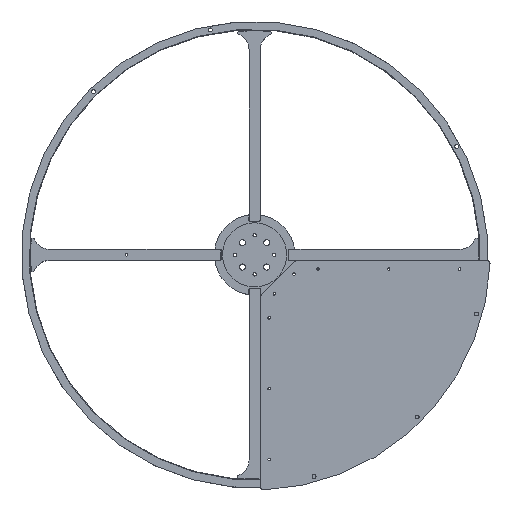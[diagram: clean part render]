
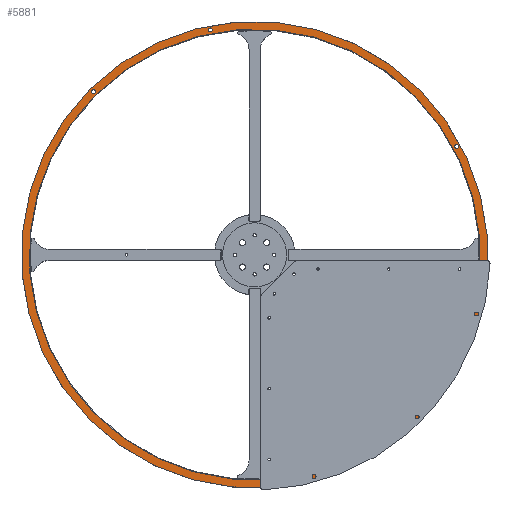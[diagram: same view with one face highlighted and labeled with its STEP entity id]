
A CAD part, top view. The second image highlights one B-rep face of the part: STEP entity #5881.
In plain terms, the highlighted planar face has unit normal (0, 0, 1) as drawn and (0, -1, 0) by its records, which use the part's own axes.
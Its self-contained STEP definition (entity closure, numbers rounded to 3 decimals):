
#114 = VERTEX_POINT ( 'NONE', #3445 ) ;
#362 = AXIS2_PLACEMENT_3D ( 'NONE', #10550, #965, #3532 ) ;
#382 = VERTEX_POINT ( 'NONE', #3102 ) ;
#461 = ORIENTED_EDGE ( 'NONE', *, *, #1300, .F. ) ;
#481 = CIRCLE ( 'NONE', #10636, 406. ) ;
#552 = CARTESIAN_POINT ( 'NONE',  ( -265.15, 0., 315.993 ) ) ;
#558 = AXIS2_PLACEMENT_3D ( 'NONE', #552, #5735, #3990 ) ;
#619 = EDGE_LOOP ( 'NONE', ( #4091, #10844 ) ) ;
#828 = EDGE_LOOP ( 'NONE', ( #1399, #2269 ) ) ;
#837 = DIRECTION ( 'NONE',  ( 0., 0., -1. ) ) ;
#965 = DIRECTION ( 'NONE',  ( 0., 1., 0. ) ) ;
#1036 = CARTESIAN_POINT ( 'NONE',  ( 406.233, 0., -71.63 ) ) ;
#1039 = CARTESIAN_POINT ( 'NONE',  ( -265.15, 0., 312.493 ) ) ;
#1214 = DIRECTION ( 'NONE',  ( 0., 0., -1. ) ) ;
#1300 = EDGE_CURVE ( 'NONE', #8530, #6712, #4088, .T. ) ;
#1399 = ORIENTED_EDGE ( 'NONE', *, *, #6649, .F. ) ;
#1979 = DIRECTION ( 'NONE',  ( 0., 1., 0. ) ) ;
#2009 = CARTESIAN_POINT ( 'NONE',  ( 378.287, 0., 164.484 ) ) ;
#2049 = EDGE_CURVE ( 'NONE', #7727, #6214, #4028, .T. ) ;
#2150 = CARTESIAN_POINT ( 'NONE',  ( -46.696, 0., 409.848 ) ) ;
#2269 = ORIENTED_EDGE ( 'NONE', *, *, #11069, .F. ) ;
#2374 = DIRECTION ( 'NONE',  ( 0., -1., 0. ) ) ;
#2470 = EDGE_CURVE ( 'NONE', #3298, #9819, #11010, .T. ) ;
#2538 = CARTESIAN_POINT ( 'NONE',  ( 0., 0., 0. ) ) ;
#2751 = EDGE_CURVE ( 'NONE', #382, #9657, #5403, .T. ) ;
#2850 = CARTESIAN_POINT ( 'NONE',  ( -46.696, 0., 406.348 ) ) ;
#2868 = AXIS2_PLACEMENT_3D ( 'NONE', #6453, #7402, #7235 ) ;
#2945 = FACE_OUTER_BOUND ( 'NONE', #828, .T. ) ;
#3102 = CARTESIAN_POINT ( 'NONE',  ( 0., 0., 406. ) ) ;
#3297 = CARTESIAN_POINT ( 'NONE',  ( 406.233, 0., -71.63 ) ) ;
#3298 = VERTEX_POINT ( 'NONE', #11022 ) ;
#3437 = DIRECTION ( 'NONE',  ( 0., 0., -1. ) ) ;
#3445 = CARTESIAN_POINT ( 'NONE',  ( 406.233, 0., -68.13 ) ) ;
#3465 = CIRCLE ( 'NONE', #362, 420. ) ;
#3532 = DIRECTION ( 'NONE',  ( 0., 0., 1. ) ) ;
#3716 = DIRECTION ( 'NONE',  ( 0., -1., 0. ) ) ;
#3764 = CARTESIAN_POINT ( 'NONE',  ( 406.233, 0., -75.13 ) ) ;
#3858 = ORIENTED_EDGE ( 'NONE', *, *, #2470, .F. ) ;
#3926 = ORIENTED_EDGE ( 'NONE', *, *, #6217, .F. ) ;
#3978 = CARTESIAN_POINT ( 'NONE',  ( 0., 0., 0. ) ) ;
#3990 = DIRECTION ( 'NONE',  ( 0., 0., -1. ) ) ;
#4028 = CIRCLE ( 'NONE', #558, 3.5 ) ;
#4088 = CIRCLE ( 'NONE', #10400, 3.5 ) ;
#4091 = ORIENTED_EDGE ( 'NONE', *, *, #7190, .T. ) ;
#4095 = AXIS2_PLACEMENT_3D ( 'NONE', #3297, #10371, #837 ) ;
#4271 = CARTESIAN_POINT ( 'NONE',  ( 0., 0., -406. ) ) ;
#4367 = AXIS2_PLACEMENT_3D ( 'NONE', #1036, #4512, #1214 ) ;
#4452 = VERTEX_POINT ( 'NONE', #4678 ) ;
#4512 = DIRECTION ( 'NONE',  ( 0., -1., 0. ) ) ;
#4553 = DIRECTION ( 'NONE',  ( 0., 0., 1. ) ) ;
#4648 = DIRECTION ( 'NONE',  ( 0., -1., 0. ) ) ;
#4660 = VERTEX_POINT ( 'NONE', #7689 ) ;
#4678 = CARTESIAN_POINT ( 'NONE',  ( 0., 0., 420. ) ) ;
#4840 = AXIS2_PLACEMENT_3D ( 'NONE', #8673, #6252, #4553 ) ;
#5246 = AXIS2_PLACEMENT_3D ( 'NONE', #3978, #1979, #8879 ) ;
#5403 = CIRCLE ( 'NONE', #2868, 406. ) ;
#5495 = FACE_BOUND ( 'NONE', #10632, .T. ) ;
#5559 = CARTESIAN_POINT ( 'NONE',  ( -46.696, 0., 409.848 ) ) ;
#5664 = FACE_BOUND ( 'NONE', #7514, .T. ) ;
#5735 = DIRECTION ( 'NONE',  ( 0., -1., 0. ) ) ;
#5813 = AXIS2_PLACEMENT_3D ( 'NONE', #2009, #3716, #7220 ) ;
#5881 = ADVANCED_FACE ( 'NONE', ( #10710, #5664, #10890, #6467, #2945, #5495 ), #8934, .F. ) ;
#6070 = CIRCLE ( 'NONE', #10217, 3.5 ) ;
#6214 = VERTEX_POINT ( 'NONE', #10512 ) ;
#6217 = EDGE_CURVE ( 'NONE', #9819, #3298, #7251, .T. ) ;
#6241 = AXIS2_PLACEMENT_3D ( 'NONE', #5559, #9004, #10775 ) ;
#6252 = DIRECTION ( 'NONE',  ( 0., 1., 0. ) ) ;
#6271 = EDGE_CURVE ( 'NONE', #114, #11134, #9231, .T. ) ;
#6446 = ORIENTED_EDGE ( 'NONE', *, *, #8831, .F. ) ;
#6453 = CARTESIAN_POINT ( 'NONE',  ( 0., 0., 0. ) ) ;
#6467 = FACE_BOUND ( 'NONE', #6803, .T. ) ;
#6573 = ORIENTED_EDGE ( 'NONE', *, *, #6271, .F. ) ;
#6649 = EDGE_CURVE ( 'NONE', #4660, #4452, #3465, .T. ) ;
#6712 = VERTEX_POINT ( 'NONE', #7825 ) ;
#6803 = EDGE_LOOP ( 'NONE', ( #8973, #6573 ) ) ;
#6992 = CARTESIAN_POINT ( 'NONE',  ( -265.15, 0., 315.993 ) ) ;
#7190 = EDGE_CURVE ( 'NONE', #9657, #382, #481, .T. ) ;
#7220 = DIRECTION ( 'NONE',  ( 0., 0., -1. ) ) ;
#7235 = DIRECTION ( 'NONE',  ( 0., 0., 1. ) ) ;
#7251 = CIRCLE ( 'NONE', #5813, 3.5 ) ;
#7402 = DIRECTION ( 'NONE',  ( 0., 1., 0. ) ) ;
#7514 = EDGE_LOOP ( 'NONE', ( #461, #6446 ) ) ;
#7574 = DIRECTION ( 'NONE',  ( 0., 0., -1. ) ) ;
#7689 = CARTESIAN_POINT ( 'NONE',  ( 0., 0., -420. ) ) ;
#7716 = EDGE_CURVE ( 'NONE', #6214, #7727, #6070, .T. ) ;
#7727 = VERTEX_POINT ( 'NONE', #1039 ) ;
#7750 = EDGE_LOOP ( 'NONE', ( #9437, #8349 ) ) ;
#7825 = CARTESIAN_POINT ( 'NONE',  ( -46.696, 0., 413.348 ) ) ;
#7970 = EDGE_CURVE ( 'NONE', #11134, #114, #10046, .T. ) ;
#8087 = DIRECTION ( 'NONE',  ( 0., 0., -1. ) ) ;
#8349 = ORIENTED_EDGE ( 'NONE', *, *, #7716, .F. ) ;
#8428 = DIRECTION ( 'NONE',  ( 0., 1., 0. ) ) ;
#8530 = VERTEX_POINT ( 'NONE', #2850 ) ;
#8673 = CARTESIAN_POINT ( 'NONE',  ( 0., 0., 0. ) ) ;
#8688 = DIRECTION ( 'NONE',  ( 0., -1., 0. ) ) ;
#8831 = EDGE_CURVE ( 'NONE', #6712, #8530, #11121, .T. ) ;
#8879 = DIRECTION ( 'NONE',  ( 0., 0., 1. ) ) ;
#8934 = PLANE ( 'NONE',  #5246 ) ;
#8973 = ORIENTED_EDGE ( 'NONE', *, *, #7970, .F. ) ;
#9004 = DIRECTION ( 'NONE',  ( 0., -1., 0. ) ) ;
#9181 = AXIS2_PLACEMENT_3D ( 'NONE', #10295, #2374, #7574 ) ;
#9231 = CIRCLE ( 'NONE', #4367, 3.5 ) ;
#9437 = ORIENTED_EDGE ( 'NONE', *, *, #2049, .F. ) ;
#9657 = VERTEX_POINT ( 'NONE', #4271 ) ;
#9819 = VERTEX_POINT ( 'NONE', #10434 ) ;
#10046 = CIRCLE ( 'NONE', #4095, 3.5 ) ;
#10140 = DIRECTION ( 'NONE',  ( 0., 0., 1. ) ) ;
#10217 = AXIS2_PLACEMENT_3D ( 'NONE', #6992, #8688, #3437 ) ;
#10295 = CARTESIAN_POINT ( 'NONE',  ( 378.287, 0., 164.484 ) ) ;
#10371 = DIRECTION ( 'NONE',  ( 0., -1., 0. ) ) ;
#10400 = AXIS2_PLACEMENT_3D ( 'NONE', #2150, #4648, #8087 ) ;
#10434 = CARTESIAN_POINT ( 'NONE',  ( 378.287, 0., 167.984 ) ) ;
#10512 = CARTESIAN_POINT ( 'NONE',  ( -265.15, 0., 319.493 ) ) ;
#10550 = CARTESIAN_POINT ( 'NONE',  ( 0., 0., 0. ) ) ;
#10632 = EDGE_LOOP ( 'NONE', ( #3858, #3926 ) ) ;
#10636 = AXIS2_PLACEMENT_3D ( 'NONE', #2538, #8428, #10140 ) ;
#10710 = FACE_BOUND ( 'NONE', #619, .T. ) ;
#10775 = DIRECTION ( 'NONE',  ( 0., 0., -1. ) ) ;
#10806 = CIRCLE ( 'NONE', #4840, 420. ) ;
#10844 = ORIENTED_EDGE ( 'NONE', *, *, #2751, .T. ) ;
#10890 = FACE_BOUND ( 'NONE', #7750, .T. ) ;
#11010 = CIRCLE ( 'NONE', #9181, 3.5 ) ;
#11022 = CARTESIAN_POINT ( 'NONE',  ( 378.287, 0., 160.984 ) ) ;
#11069 = EDGE_CURVE ( 'NONE', #4452, #4660, #10806, .T. ) ;
#11121 = CIRCLE ( 'NONE', #6241, 3.5 ) ;
#11134 = VERTEX_POINT ( 'NONE', #3764 ) ;
